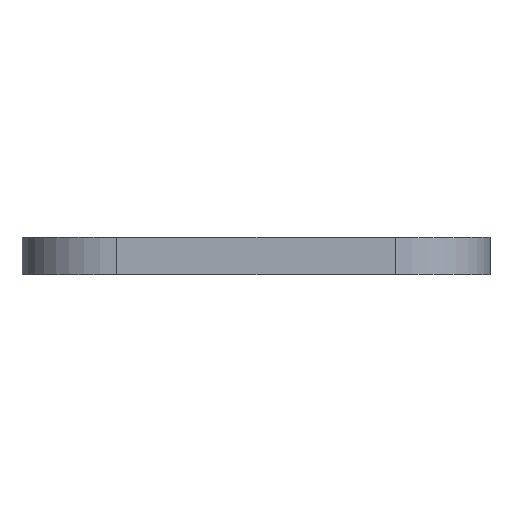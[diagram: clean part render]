
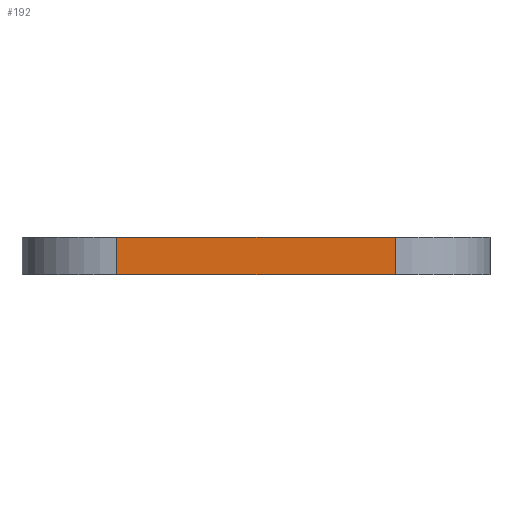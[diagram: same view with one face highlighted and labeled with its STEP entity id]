
A CAD part, left-side view. The second image highlights one B-rep face of the part: STEP entity #192.
In plain terms, the highlighted planar face has unit normal (-1, 0, 0).
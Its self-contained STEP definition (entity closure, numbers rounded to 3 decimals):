
#61 = VECTOR ( 'NONE', #182, 1000. ) ;
#82 = DIRECTION ( 'NONE',  ( 0., -1., 0. ) ) ;
#98 = VERTEX_POINT ( 'NONE', #865 ) ;
#155 = LINE ( 'NONE', #529, #700 ) ;
#174 = VERTEX_POINT ( 'NONE', #528 ) ;
#180 = VERTEX_POINT ( 'NONE', #817 ) ;
#182 = DIRECTION ( 'NONE',  ( 0., -1., 0. ) ) ;
#192 = ADVANCED_FACE ( 'NONE', ( #600 ), #316, .F. ) ;
#229 = CARTESIAN_POINT ( 'NONE',  ( -47., -115.404, 0. ) ) ;
#247 = DIRECTION ( 'NONE',  ( 0., 0., -1. ) ) ;
#316 = PLANE ( 'NONE',  #590 ) ;
#331 = CARTESIAN_POINT ( 'NONE',  ( -47., -71.404, 6. ) ) ;
#346 = ORIENTED_EDGE ( 'NONE', *, *, #802, .F. ) ;
#382 = VECTOR ( 'NONE', #247, 1000. ) ;
#410 = CARTESIAN_POINT ( 'NONE',  ( -47., -115.404, 6. ) ) ;
#441 = EDGE_CURVE ( 'NONE', #174, #536, #155, .T. ) ;
#461 = LINE ( 'NONE', #410, #382 ) ;
#528 = CARTESIAN_POINT ( 'NONE',  ( -47., -71.404, 0. ) ) ;
#529 = CARTESIAN_POINT ( 'NONE',  ( -47., -93.404, 0. ) ) ;
#531 = EDGE_CURVE ( 'NONE', #98, #174, #595, .T. ) ;
#536 = VERTEX_POINT ( 'NONE', #229 ) ;
#554 = LINE ( 'NONE', #331, #61 ) ;
#587 = DIRECTION ( 'NONE',  ( 0., 1., 0. ) ) ;
#590 = AXIS2_PLACEMENT_3D ( 'NONE', #748, #883, #587 ) ;
#595 = LINE ( 'NONE', #812, #743 ) ;
#597 = ORIENTED_EDGE ( 'NONE', *, *, #441, .T. ) ;
#600 = FACE_OUTER_BOUND ( 'NONE', #849, .T. ) ;
#612 = ORIENTED_EDGE ( 'NONE', *, *, #531, .T. ) ;
#700 = VECTOR ( 'NONE', #82, 1000. ) ;
#728 = ORIENTED_EDGE ( 'NONE', *, *, #845, .F. ) ;
#743 = VECTOR ( 'NONE', #887, 1000. ) ;
#748 = CARTESIAN_POINT ( 'NONE',  ( -47., -93.404, 6. ) ) ;
#802 = EDGE_CURVE ( 'NONE', #98, #180, #554, .T. ) ;
#812 = CARTESIAN_POINT ( 'NONE',  ( -47., -71.404, 6. ) ) ;
#817 = CARTESIAN_POINT ( 'NONE',  ( -47., -115.404, 6. ) ) ;
#845 = EDGE_CURVE ( 'NONE', #180, #536, #461, .T. ) ;
#849 = EDGE_LOOP ( 'NONE', ( #597, #728, #346, #612 ) ) ;
#865 = CARTESIAN_POINT ( 'NONE',  ( -47., -71.404, 6. ) ) ;
#883 = DIRECTION ( 'NONE',  ( 1., 0., 0. ) ) ;
#887 = DIRECTION ( 'NONE',  ( 0., 0., -1. ) ) ;
